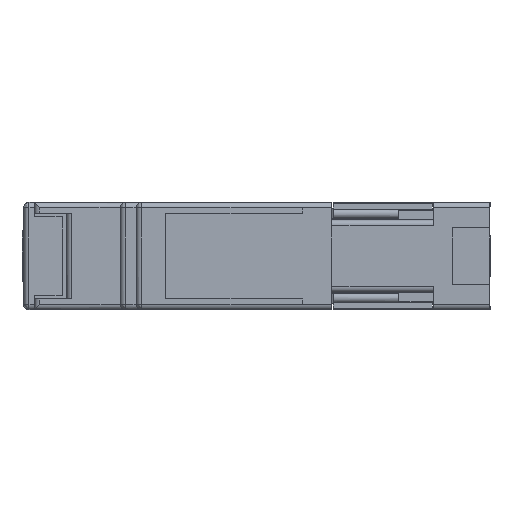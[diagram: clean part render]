
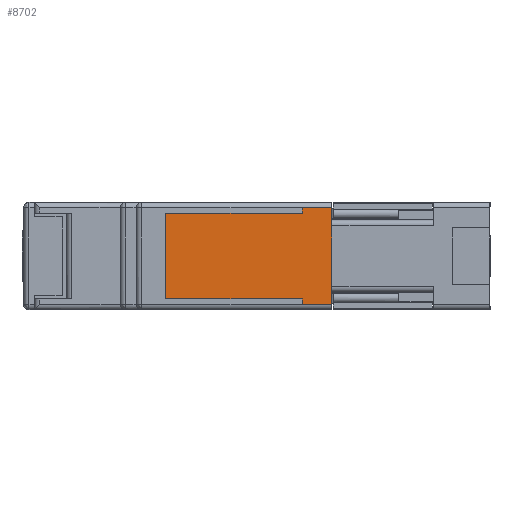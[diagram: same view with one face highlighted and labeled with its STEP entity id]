
A CAD part, left-side view. The second image highlights one B-rep face of the part: STEP entity #8702.
In plain terms, the highlighted planar face has unit normal (-1, 0, 0).
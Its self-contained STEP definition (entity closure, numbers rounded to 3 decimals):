
#705 = CARTESIAN_POINT ( 'NONE',  ( -4.5, 65., -96.054 ) ) ;
#712 = ORIENTED_EDGE ( 'NONE', *, *, #64630, .T. ) ;
#1697 = DIRECTION ( 'NONE',  ( 0., 0., 1. ) ) ;
#2239 = DIRECTION ( 'NONE',  ( 0., -1., 0. ) ) ;
#3245 = CARTESIAN_POINT ( 'NONE',  ( -4.5, 60.5, -18. ) ) ;
#4746 = DIRECTION ( 'NONE',  ( 0., 1., 0. ) ) ;
#6624 = ORIENTED_EDGE ( 'NONE', *, *, #39907, .T. ) ;
#7683 = PLANE ( 'NONE',  #25007 ) ;
#8055 = LINE ( 'NONE', #76289, #84192 ) ;
#8702 = ADVANCED_FACE ( 'NONE', ( #94845 ), #7683, .T. ) ;
#12192 = CARTESIAN_POINT ( 'NONE',  ( -4.5, 60.5, -2. ) ) ;
#12878 = EDGE_CURVE ( 'NONE', #71278, #63752, #14950, .T. ) ;
#13366 = VECTOR ( 'NONE', #81668, 1000. ) ;
#14950 = LINE ( 'NONE', #35713, #88667 ) ;
#17517 = ORIENTED_EDGE ( 'NONE', *, *, #89607, .T. ) ;
#22772 = LINE ( 'NONE', #90353, #64421 ) ;
#24270 = ORIENTED_EDGE ( 'NONE', *, *, #77357, .T. ) ;
#25007 = AXIS2_PLACEMENT_3D ( 'NONE', #705, #45631, #38651 ) ;
#25263 = LINE ( 'NONE', #44717, #13366 ) ;
#25879 = CARTESIAN_POINT ( 'NONE',  ( -4.5, 65., -19. ) ) ;
#26012 = EDGE_CURVE ( 'NONE', #45818, #26541, #83598, .T. ) ;
#26114 = VERTEX_POINT ( 'NONE', #41840 ) ;
#26541 = VERTEX_POINT ( 'NONE', #85905 ) ;
#28397 = VERTEX_POINT ( 'NONE', #65386 ) ;
#35232 = LINE ( 'NONE', #78871, #54248 ) ;
#35713 = CARTESIAN_POINT ( 'NONE',  ( -4.5, 65., -1. ) ) ;
#36301 = CARTESIAN_POINT ( 'NONE',  ( -4.5, 35., -19. ) ) ;
#36953 = EDGE_CURVE ( 'NONE', #26114, #58476, #77663, .T. ) ;
#38651 = DIRECTION ( 'NONE',  ( 0., -1., 0. ) ) ;
#39907 = EDGE_CURVE ( 'NONE', #28397, #45818, #8055, .T. ) ;
#41840 = CARTESIAN_POINT ( 'NONE',  ( -4.5, 35., -2. ) ) ;
#42558 = CARTESIAN_POINT ( 'NONE',  ( -4.5, 35., -1. ) ) ;
#43449 = VECTOR ( 'NONE', #95574, 1000. ) ;
#44717 = CARTESIAN_POINT ( 'NONE',  ( -4.5, 35., -96.054 ) ) ;
#45631 = DIRECTION ( 'NONE',  ( -1., 0., 0. ) ) ;
#45818 = VERTEX_POINT ( 'NONE', #36301 ) ;
#46031 = DIRECTION ( 'NONE',  ( 0., 0., -1. ) ) ;
#48248 = LINE ( 'NONE', #79954, #43449 ) ;
#51891 = VERTEX_POINT ( 'NONE', #3245 ) ;
#54248 = VECTOR ( 'NONE', #1697, 1000. ) ;
#54488 = DIRECTION ( 'NONE',  ( 0., 1., 0. ) ) ;
#56180 = VECTOR ( 'NONE', #54488, 1000. ) ;
#58476 = VERTEX_POINT ( 'NONE', #12192 ) ;
#59828 = DIRECTION ( 'NONE',  ( 0., 0., 1. ) ) ;
#62625 = ORIENTED_EDGE ( 'NONE', *, *, #65932, .F. ) ;
#63752 = VERTEX_POINT ( 'NONE', #42558 ) ;
#64421 = VECTOR ( 'NONE', #59828, 1000. ) ;
#64630 = EDGE_CURVE ( 'NONE', #51891, #28397, #48248, .T. ) ;
#65386 = CARTESIAN_POINT ( 'NONE',  ( -4.5, 35., -18. ) ) ;
#65394 = CARTESIAN_POINT ( 'NONE',  ( -4.5, 29.5, -1. ) ) ;
#65932 = EDGE_CURVE ( 'NONE', #51891, #58476, #22772, .T. ) ;
#67820 = ORIENTED_EDGE ( 'NONE', *, *, #26012, .T. ) ;
#70137 = CARTESIAN_POINT ( 'NONE',  ( -4.5, 65., -2. ) ) ;
#71278 = VERTEX_POINT ( 'NONE', #65394 ) ;
#76289 = CARTESIAN_POINT ( 'NONE',  ( -4.5, 35., -96.054 ) ) ;
#77357 = EDGE_CURVE ( 'NONE', #26541, #71278, #35232, .T. ) ;
#77663 = LINE ( 'NONE', #70137, #56180 ) ;
#77748 = VECTOR ( 'NONE', #2239, 1000. ) ;
#78871 = CARTESIAN_POINT ( 'NONE',  ( -4.5, 29.5, -96.054 ) ) ;
#79954 = CARTESIAN_POINT ( 'NONE',  ( -4.5, 65., -18. ) ) ;
#80551 = ORIENTED_EDGE ( 'NONE', *, *, #12878, .T. ) ;
#81499 = ORIENTED_EDGE ( 'NONE', *, *, #36953, .T. ) ;
#81668 = DIRECTION ( 'NONE',  ( 0., 0., -1. ) ) ;
#83598 = LINE ( 'NONE', #25879, #77748 ) ;
#84192 = VECTOR ( 'NONE', #46031, 1000. ) ;
#85905 = CARTESIAN_POINT ( 'NONE',  ( -4.5, 29.5, -19. ) ) ;
#88667 = VECTOR ( 'NONE', #4746, 1000. ) ;
#89607 = EDGE_CURVE ( 'NONE', #63752, #26114, #25263, .T. ) ;
#90353 = CARTESIAN_POINT ( 'NONE',  ( -4.5, 60.5, -96.054 ) ) ;
#93791 = EDGE_LOOP ( 'NONE', ( #6624, #67820, #24270, #80551, #17517, #81499, #62625, #712 ) ) ;
#94845 = FACE_OUTER_BOUND ( 'NONE', #93791, .T. ) ;
#95574 = DIRECTION ( 'NONE',  ( 0., -1., 0. ) ) ;
